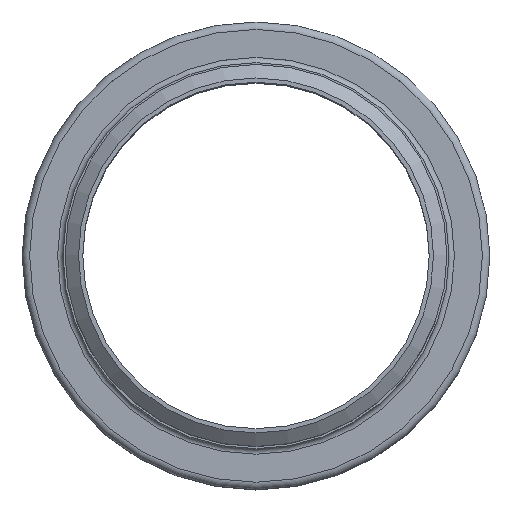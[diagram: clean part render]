
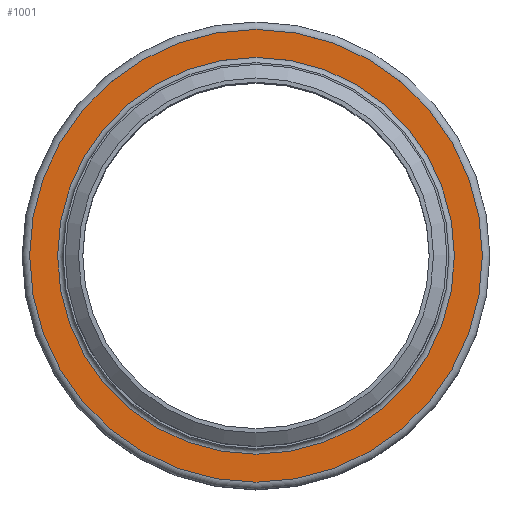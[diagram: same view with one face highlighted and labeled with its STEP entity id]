
A CAD part, top view. The second image highlights one B-rep face of the part: STEP entity #1001.
In plain terms, the highlighted planar face has unit normal (0, 0, 1).
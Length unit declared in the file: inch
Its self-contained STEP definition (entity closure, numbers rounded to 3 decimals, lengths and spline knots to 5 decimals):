
#123=FACE_BOUND('',#304,.T.);
#192=FACE_OUTER_BOUND('',#303,.T.);
#303=EDGE_LOOP('',(#832));
#304=EDGE_LOOP('',(#833));
#424=CIRCLE('',#1220,2.89025);
#425=CIRCLE('',#1222,3.29775);
#511=VERTEX_POINT('',#1895);
#512=VERTEX_POINT('',#1899);
#622=EDGE_CURVE('',#511,#511,#424,.T.);
#623=EDGE_CURVE('',#512,#512,#425,.T.);
#832=ORIENTED_EDGE('',*,*,#623,.F.);
#833=ORIENTED_EDGE('',*,*,#622,.T.);
#932=PLANE('',#1221);
#1001=ADVANCED_FACE('',(#192,#123),#932,.T.);
#1220=AXIS2_PLACEMENT_3D('',#1897,#1573,#1574);
#1221=AXIS2_PLACEMENT_3D('',#1898,#1575,#1576);
#1222=AXIS2_PLACEMENT_3D('',#1900,#1577,#1578);
#1573=DIRECTION('center_axis',(0.,0.,-1.));
#1574=DIRECTION('ref_axis',(1.,0.,0.));
#1575=DIRECTION('center_axis',(0.,0.,1.));
#1576=DIRECTION('ref_axis',(1.,0.,0.));
#1577=DIRECTION('center_axis',(0.,0.,-1.));
#1578=DIRECTION('ref_axis',(1.,0.,0.));
#1895=CARTESIAN_POINT('',(2.89025,0.,-0.07875));
#1897=CARTESIAN_POINT('Origin',(0.,0.,-0.07875));
#1898=CARTESIAN_POINT('Origin',(0.,3.29775,-0.07875));
#1899=CARTESIAN_POINT('',(3.29775,0.,-0.07875));
#1900=CARTESIAN_POINT('Origin',(0.,0.,-0.07875));
